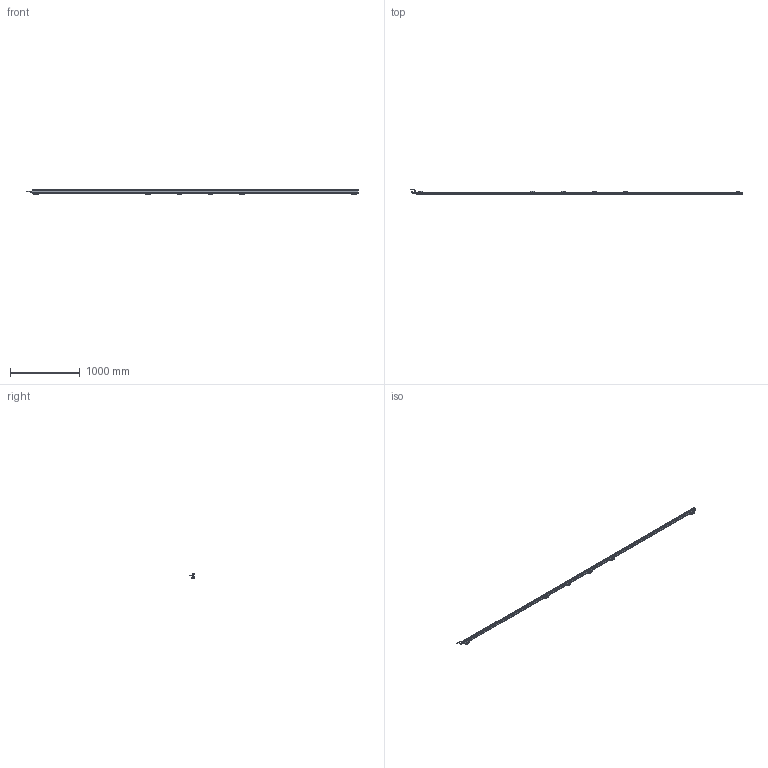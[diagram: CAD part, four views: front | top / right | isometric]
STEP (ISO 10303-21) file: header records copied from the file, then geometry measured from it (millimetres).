
FILE_DESCRIPTION(('Bauteilbeschreibung','HiCAD-Model','HiCAD-STEP-TRANSLATION','Bauteilbeschreibung'),'2;1');
FILE_NAME('PERFORMAXIQEASY_4590-4680_3D.STP','2014-03-05T13:45:44+00:00',('Konstrukteur'),('Konstrukteur Firma GmbH'),' HiCAD 2011, Step 1600.0 ','HiCAD 2011','confidential');
FILE_SCHEMA(('AUTOMOTIVE_DESIGN { 1 2 10303 214 0 1 1 1 }'));
Products named in the file (56): PERFORMAXIQEASY_4590_4680_3D; A_PERFORMAX IQ EASY 4590_4680; A_PERFORMAX IQ EASY SPEED; A_CAP DE; A_CAP CE_5; LED_2C_3MM; LED02C03MM; A519020315_CONNECTOR APPLIANCE; A_INSERT; A_CONTACTS; A_HOUSING; A_PROFILE; A_POTTING; PIN; PIN0; A532000100_BRACKET BARS_ MOUNT; A_SIDE PIECE; A0SIDE0PIECE; A_BRACKET SMALL; A_SLIDE PIECE; A5320001000BRACKET0BARS00MOUNT; A0SIDE0PIECE0; A0SIDE0PIECE1; A0BRACKET0SMALL; A0SLIDE0PIECE; A5320001000BRACKET0BARS00MOUNT0; A0SIDE0PIECE2; A0SIDE0PIECE3; A0BRACKET0SMALL0; A0SLIDE0PIECE0; A0SIDE0PIECE4; A0SIDE0PIECE5; A0BRACKET0SMALL1; A0SLIDE0PIECE1; A0SIDE0PIECE6; A0SIDE0PIECE7; A0BRACKET0SMALL2; A0SLIDE0PIECE2; A0SIDE0PIECE8; A0SIDE0PIECE9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
Assembly tree (55 placements, depth 5):
  PERFORMAXIQEASY_4590_4680_3D
    A_PERFORMAX IQ EASY 4590_4680
      A_PERFORMAX IQ EASY SPEED
        A_CAP DE
        A_CAP CE_5
        LED_2C_3MM
        LED02C03MM
        A519020315_CONNECTOR APPLIANCE
          A_INSERT
          A_CONTACTS
          A_HOUSING
        A_PROFILE
        A_POTTING
        PIN
        PIN0
      A532000100_BRACKET BARS_ MOUNT
        A_SIDE PIECE
        A0SIDE0PIECE
        A_BRACKET SMALL
        A_SLIDE PIECE
      A5320001000BRACKET0BARS00MOUNT
        A0SIDE0PIECE0
        A0SIDE0PIECE1
        A0BRACKET0SMALL
        A0SLIDE0PIECE
      A5320001000BRACKET0BARS00MOUNT0
        A0SIDE0PIECE2
        A0SIDE0PIECE3
        A0BRACKET0SMALL0
        A0SLIDE0PIECE0
      A5320001000BRACKET0BARS00MOUNT0
        A0SIDE0PIECE4
        A0SIDE0PIECE5
        A0BRACKET0SMALL1
        A0SLIDE0PIECE1
      A5320001000BRACKET0BARS00MOUNT0
        A0SIDE0PIECE6
        A0SIDE0PIECE7
        A0BRACKET0SMALL2
        A0SLIDE0PIECE2
      A5320001000BRACKET0BARS00MOUNT0
        A0SIDE0PIECE8
        A0SIDE0PIECE9
        A0BRACKET0SMALL3
        A0SLIDE0PIECE3
      A_CONNECTOR STRAIGHT
        EXTRUDED SOLID_0
        DRAAD GEBOGEN
        REVOLVED SOLID_1
        REVOLVED SOLID_3
      A_CONNECTOR ANGLED
        REVOLVED0SOLID01
        EXTRUDED0SOLID00
        C_EDGE SWEEP_0
        REVOLVED SOLID_2
        REVOLVED0SOLID03
Bounding box: 4757.89 x 84.24 x 63.13 mm (x, y, z)
Volume: 4794587.6 mm3; surface area: 1143240.6 mm2
Topology: 49 solids, 49 shells, 4983 faces, 12800 edges, 7585 vertices
Faces by surface type: cylinder 2137, plane 1879, sphere 332, torus 299, bspline 248, cone 88
Full cylindrical faces by diameter (mm): 0.8 x10, 1 x5, 2.387 x12, 3 x27, 3.1 x1, 4.2 x2, 5 x4, 5.5 x30, 8 x2, 8.2 x1, 8.4 x2, 8.945 x1, 9 x2, 10.2 x1, 10.5 x3, 11 x1, 12 x3, 12.8 x1, 13.8 x4, 14.5 x3
Entity records: 231105 total; most frequent: CARTESIAN_POINT 54548, DIRECTION 24777, ORIENTED_EDGE 24320, EDGE_CURVE 12160, COLOUR_RGB 11541, PRESENTATION_STYLE_ASSIGNMENT 11541, OVER_RIDING_STYLED_ITEM 11497, CURVE_STYLE 11492
